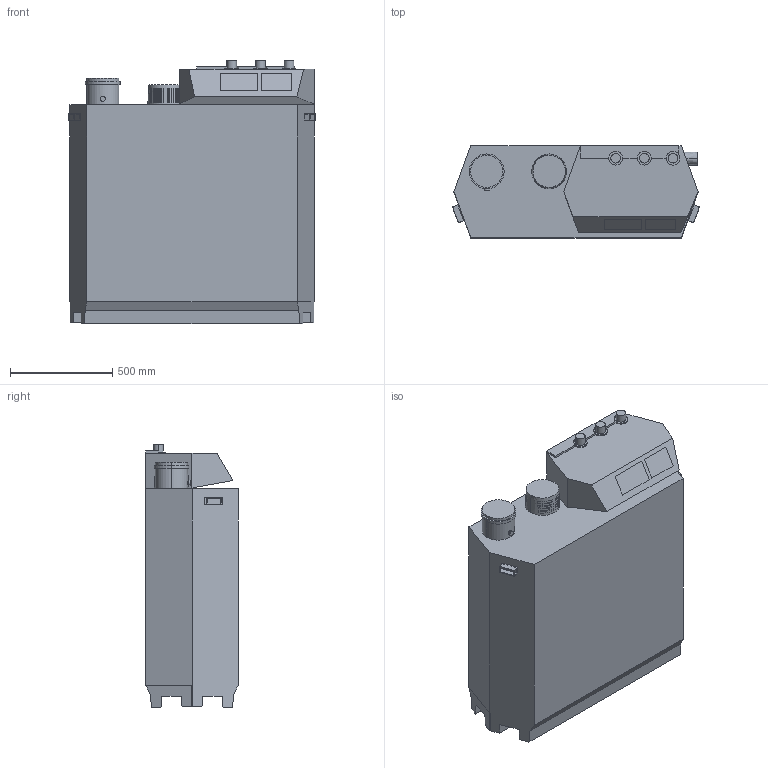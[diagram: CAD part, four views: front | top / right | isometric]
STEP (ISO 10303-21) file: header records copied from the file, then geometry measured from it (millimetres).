
FILE_DESCRIPTION (( 'STEP AP203' ), '1' );
FILE_NAME ('gas 210 eco.step', '2012-02-06T08:57:36', ( 'Peter' ), ( '' ), 'SwSTEP 2.0', 'SolidWorks 2011', '' );
FILE_SCHEMA (( 'CONFIG_CONTROL_DESIGN' ));
Length unit declared in the file: millimetre
Products named in the file (1): gas 210 eco
Bounding box: 1207.11 x 450 x 1289 mm (x, y, z)
Volume: 559737165.7 mm3; surface area: 5126498.5 mm2
Topology: 2 solids, 2 shells, 261 faces, 859 edges, 758 vertices
Faces by surface type: cone 142, plane 85, cylinder 22, bspline 12
Entity records: 11141 total; most frequent: CARTESIAN_POINT 4180, ORIENTED_EDGE 1718, EDGE_CURVE 859, DIRECTION 819, VERTEX_POINT 758, B_SPLINE_CURVE_WITH_KNOTS 568, EDGE_LOOP 425, AXIS2_PLACEMENT_3D 296
